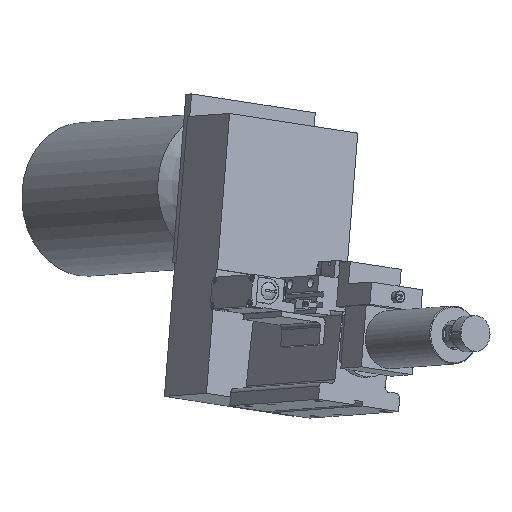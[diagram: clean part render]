
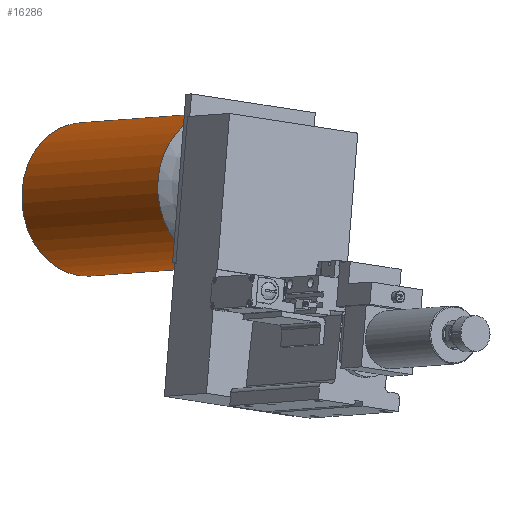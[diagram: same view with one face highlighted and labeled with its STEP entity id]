
A CAD part, front view. The second image highlights one B-rep face of the part: STEP entity #16286.
In plain terms, the highlighted cylindrical face has radius 86 mm (diameter 172 mm), a full revolution.
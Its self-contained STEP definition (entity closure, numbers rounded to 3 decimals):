
#16259=CARTESIAN_POINT('',(-180.52,299.17,279.067));
#16260=DIRECTION('',(0.574,-0.818,0.042));
#16261=DIRECTION('',(0.815,0.566,-0.125));
#16262=AXIS2_PLACEMENT_3D('',#16259,#16260,#16261);
#16263=CYLINDRICAL_SURFACE('',#16262,86.);
#16264=CARTESIAN_POINT('',(-34.35,239.504,273.904));
#16265=VERTEX_POINT('',#16264);
#16266=CARTESIAN_POINT('',(-104.432,190.841,284.695));
#16267=DIRECTION('',(0.574,-0.818,0.042));
#16268=DIRECTION('',(0.815,0.566,-0.125));
#16269=AXIS2_PLACEMENT_3D('',#16266,#16267,#16268);
#16270=CIRCLE('',#16269,86.);
#16271=EDGE_CURVE('',#16265,#16265,#16270,.T.);
#16272=ORIENTED_EDGE('',*,*,#16271,.F.);
#16273=EDGE_LOOP('',(#16272));
#16274=FACE_OUTER_BOUND('',#16273,.T.);
#16275=CARTESIAN_POINT('',(-186.526,456.162,262.648));
#16276=VERTEX_POINT('',#16275);
#16277=CARTESIAN_POINT('',(-256.608,407.499,273.439));
#16278=DIRECTION('',(0.574,-0.818,0.042));
#16279=DIRECTION('',(0.815,0.566,-0.125));
#16280=AXIS2_PLACEMENT_3D('',#16277,#16278,#16279);
#16281=CIRCLE('',#16280,86.);
#16282=EDGE_CURVE('',#16276,#16276,#16281,.T.);
#16283=ORIENTED_EDGE('',*,*,#16282,.T.);
#16284=EDGE_LOOP('',(#16283));
#16285=FACE_BOUND('',#16284,.T.);
#16286=ADVANCED_FACE('',(#16274,#16285),#16263,.T.);
